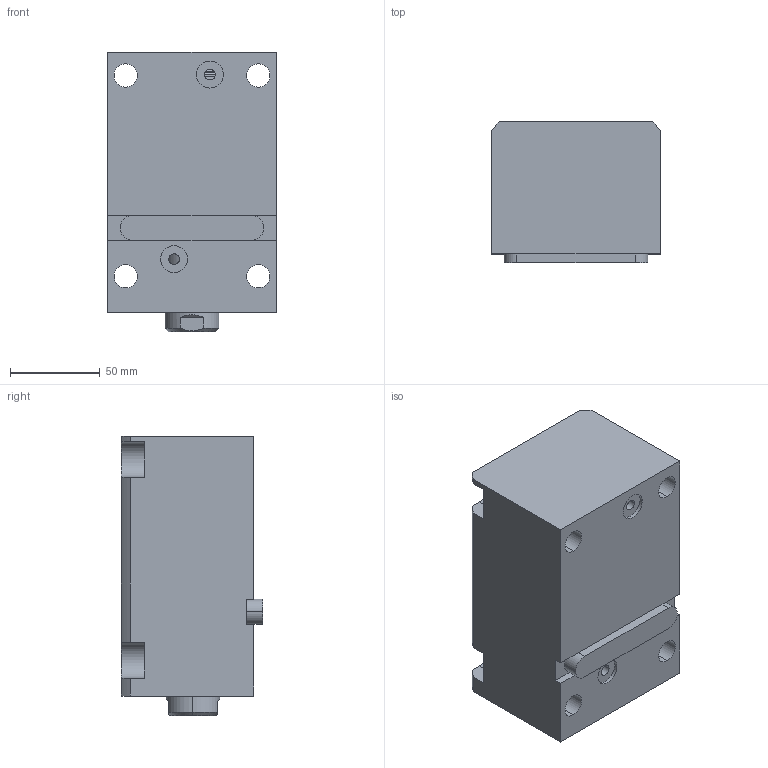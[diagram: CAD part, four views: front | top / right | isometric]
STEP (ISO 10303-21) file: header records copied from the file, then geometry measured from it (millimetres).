
FILE_DESCRIPTION (( 'STEP AP203' ), '1' );
FILE_NAME ('CHTB-LAM50-85N.STEP', '2018-05-23T11:16:47', ( '' ), ( '' ), 'SwSTEP 2.0', 'SolidWorks 2015', '' );
FILE_SCHEMA (( 'CONFIG_CONTROL_DESIGN' ));
Length unit declared in the file: millimetre
Products named in the file (4): 活塞杆LAM50-85N; CHTB-LAM50-85N; CHTM-SDMA50QG; 掛极LAM50-85N
Assembly tree (3 placements, depth 2):
  CHTB-LAM50-85N
    掛极LAM50-85N
    CHTM-SDMA50QG
    活塞杆LAM50-85N
Bounding box: 94 x 79 x 156 mm (x, y, z)
Volume: 846396.4 mm3; surface area: 132587.9 mm2
Topology: 3 solids, 3 shells, 192 faces, 524 edges, 347 vertices
Faces by surface type: cylinder 96, plane 51, torus 16, cone 15, bspline 14
Entity records: 11011 total; most frequent: CARTESIAN_POINT 5956, ORIENTED_EDGE 1036, DIRECTION 908, EDGE_CURVE 518, AXIS2_PLACEMENT_3D 356, VERTEX_POINT 347, EDGE_LOOP 221, VECTOR 196
